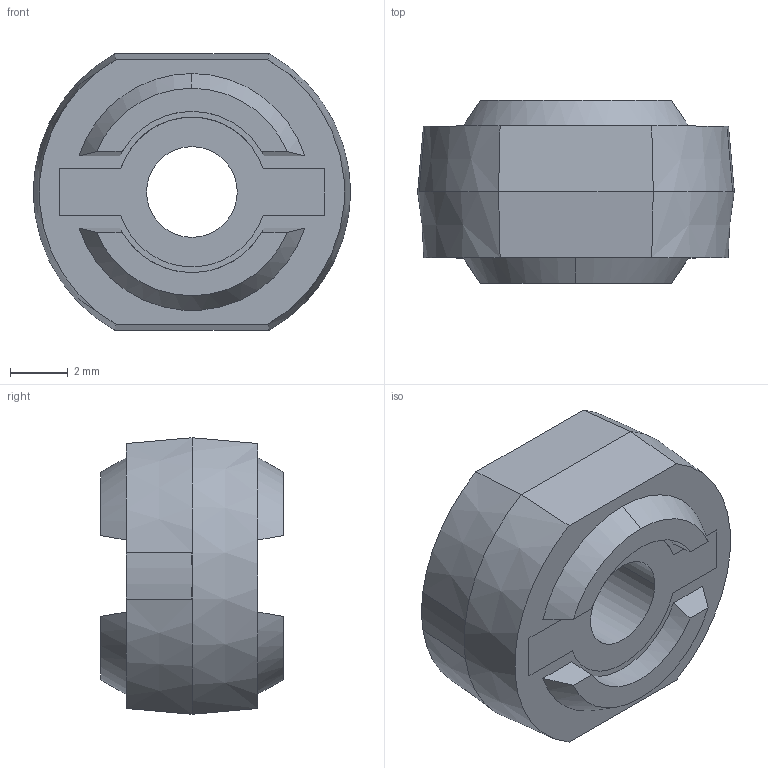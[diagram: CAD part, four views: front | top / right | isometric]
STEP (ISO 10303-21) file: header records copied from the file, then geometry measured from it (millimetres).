
FILE_DESCRIPTION (( 'STEP AP214' ), '1' );
FILE_NAME ('228-2500-143.STEP', '2021-02-18T19:50:10', ( '' ), ( '' ), 'SwSTEP 2.0', 'SolidWorks 2019', '' );
FILE_SCHEMA (( 'AUTOMOTIVE_DESIGN' ));
Length unit declared in the file: millimetre
Products named in the file (3): 228-2500-142 Rev13_228-2500-142; 228-2500-143; 228-2500-143-OVERMOLD Rev16_228-2500-143-OVERMOLD
Assembly tree (2 placements, depth 2):
  228-2500-143
    228-2500-142 Rev13_228-2500-142
    228-2500-143-OVERMOLD Rev16_228-2500-143-OVERMOLD
Bounding box: 10.99 x 6.35 x 9.6 mm (x, y, z)
Volume: 389.4 mm3; surface area: 652.9 mm2
Topology: 2 solids, 2 shells, 93 faces, 250 edges, 160 vertices
Faces by surface type: plane 65, cone 15, cylinder 13
Entity records: 3062 total; most frequent: CARTESIAN_POINT 628, ORIENTED_EDGE 500, DIRECTION 470, EDGE_CURVE 250, LINE 162, VECTOR 162, VERTEX_POINT 160, AXIS2_PLACEMENT_3D 154
